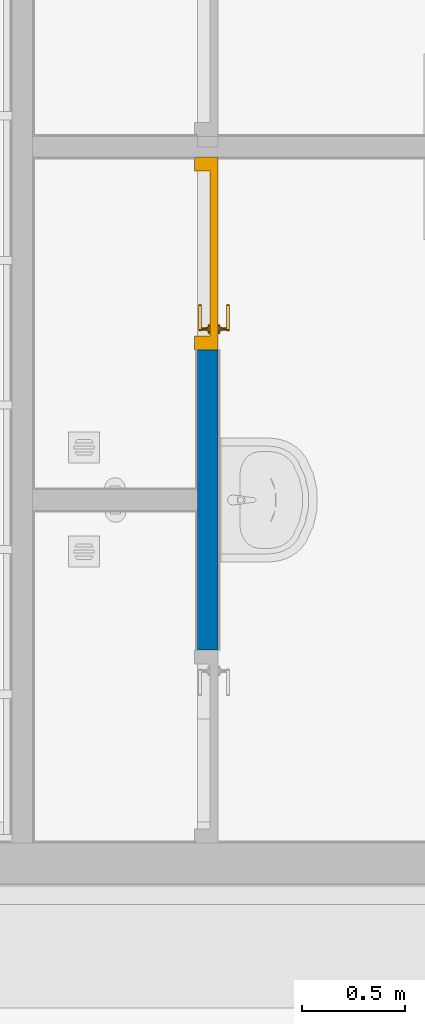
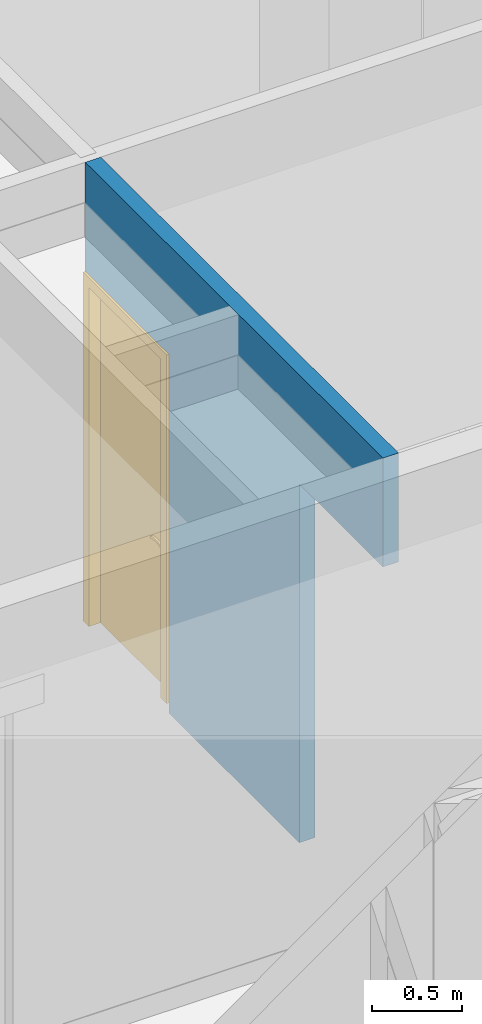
# One storey, part 8 of 788: 1 door, 1 wall, 2 openings.
"""IFC2X3 building model written with IfcOpenShell, lengths in millimetres."""

from ifc_helpers import new_model, entity, si_unit, converted_unit, derived_unit, money_unit, direction, frame, origin_with_axes, place, context, subcontext, project, spatial, faceted_brep, source, transform, mapped, material, type_object, type_shapes, element, fill, save


model = new_model("IFC2X3")

# Units and contexts
model_context = context("Model", 3, precision=0.01, world=origin_with_axes(), true_north=direction((0.0, 1.0)))
plan_context = context("Plan", 3, precision=0.01, world=origin_with_axes(), true_north=direction((0.0, 1.0)))
body_context = subcontext(model_context, "Body", "Model", "MODEL_VIEW")
ifc_project = project(units=[si_unit("LENGTHUNIT", "METRE", prefix="MILLI"), si_unit("AREAUNIT", "SQUARE_METRE"), si_unit("VOLUMEUNIT", "CUBIC_METRE"), converted_unit("PLANEANGLEUNIT", "DEGREE", entity("IfcPlaneAngleMeasure", 0.0174532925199), si_unit("PLANEANGLEUNIT", "RADIAN"), dimensions=[0, 0, 0, 0, 0, 0, 0]), money_unit("EUR"), converted_unit("TIMEUNIT", "Year", entity("IfcTimeMeasure", 31556926.0), si_unit("TIMEUNIT", "SECOND"), dimensions=[0, 0, 1, 0, 0, 0, 0]), si_unit("MASSUNIT", "GRAM", prefix="KILO"), si_unit("THERMODYNAMICTEMPERATUREUNIT", "DEGREE_CELSIUS"), si_unit("LUMINOUSINTENSITYUNIT", "LUMEN"), si_unit("ENERGYUNIT", "JOULE", prefix="MEGA"), derived_unit("THERMALCONDUCTANCEUNIT", [(si_unit("POWERUNIT", "WATT"), 1), (si_unit("LENGTHUNIT", "METRE"), -1), (si_unit("THERMODYNAMICTEMPERATUREUNIT", "KELVIN"), -1)]), derived_unit("SPECIFICHEATCAPACITYUNIT", [(si_unit("ENERGYUNIT", "JOULE"), 1), (si_unit("MASSUNIT", "GRAM", prefix="KILO"), -1), (si_unit("THERMODYNAMICTEMPERATUREUNIT", "KELVIN"), -1)]), derived_unit("MASSDENSITYUNIT", [(si_unit("MASSUNIT", "GRAM", prefix="KILO"), 1), (si_unit("VOLUMEUNIT", "CUBIC_METRE"), -1)])], contexts=[model_context, plan_context])

# Site, building, storey
site_placement = place(None, origin_with_axes())
site = spatial("IfcSite", under=ifc_project, at=site_placement, Name="Site", CompositionType="ELEMENT")
building_placement = place(site_placement, origin_with_axes())
building = spatial("IfcBuilding", under=site, at=building_placement, Name="Naam gebouw", CompositionType="ELEMENT")
storey_placement = place(building_placement, origin_with_axes())
storey = spatial("IfcBuildingStorey", under=building, at=storey_placement, Name="Begane grond", CompositionType="ELEMENT", Elevation=0.0)

# Wall, openings, door
ifc_material = material(Name="Steen - Betonblok C")
wall_type = type_object("IfcWallType", Name="22 Binnenwand NC_betonblok 100mm 100", PredefinedType="ELEMENTEDWALL")
wall_placement = place(storey_placement, frame((68656.0127546, -47328.9563034, 830.0), z_axis=(0.0, 0.0, 1.0), x_axis=(0.0, -1.0, 0.0)))
wall = element("IfcWall", 1, at=wall_placement, inside=storey, type_object=wall_type, material=ifc_material, Name="Binnenwand", context=body_context, shape_type="Brep", body=[
    faceted_brep([(2441.04552762, 100.0, 2447.0), (2441.04552762, 100.0, 70.0), (2441.04552762, 100.0, 0.0), (984.000000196, 100.0, 0.0), (984.000000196, 100.0, 70.0), (984.000000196, 100.0, 2447.0), (50.043772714, 100.0, 2447.0), (50.043772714, 100.0, 3190.0), (3375.04377271, 100.0, 3190.0), (3375.04552762, 100.0, 2447.0), (2441.04552762, 0.0, 2447.0), (2441.04552762, 0.0, 70.0), (2441.04552762, 0.0, 0.0), (984.000000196, 0.0, 0.0), (984.000000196, 0.0, 70.0), (984.000000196, 0.0, 2447.0), (50.043772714, 0.0, 2447.0), (50.043772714, 0.0, 3190.0), (3375.04377271, 0.0, 3190.0), (3375.04552762, 0.0, 2447.0)], [[[0, 1, 2, 3, 4, 5, 6, 7, 8, 9]], [[1, 0, 10, 11]], [[1, 11, 12, 2]], [[12, 13, 3, 2]], [[4, 3, 13, 14]], [[4, 14, 15, 5]], [[6, 5, 15, 16]], [[16, 17, 7, 6]], [[8, 7, 17, 18]], [[19, 9, 8, 18]], [[0, 9, 19, 10]], [[10, 19, 18, 17, 16, 15, 14, 13, 12, 11]]]),
])
opening_1_placement = place(wall_placement, frame((517.000000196, 0.0, 70.0), z_axis=(0.0, 0.0, 1.0), x_axis=(1.0, 0.0, 0.0)))
opening_1 = element("IfcOpeningElement", 2, at=opening_1_placement, cuts=wall, Name="b1.11-sp", context=body_context, shape_type="Brep", body=[
    faceted_brep([(-467.0, 200.0, 2377.0), (-467.0, 200.0, 0.0), (-467.0, -100.0, 0.0), (-467.0, -100.0, 2377.0), (467.0, 200.0, 2377.0), (467.0, 200.0, 0.0), (467.0, -100.0, 0.0), (467.0, -100.0, 2377.0)], [[[0, 1, 2, 3]], [[0, 4, 5, 1]], [[1, 5, 6, 2]], [[3, 2, 6, 7]], [[4, 0, 3, 7]], [[5, 4, 7, 6]]]),
])
opening_2_placement = place(wall_placement, frame((2908.04552762, 0.0, 70.0), z_axis=(0.0, 0.0, 1.0), x_axis=(1.0, 0.0, 0.0)))
element("IfcOpeningElement", 3, at=opening_2_placement, cuts=wall, Name="b1.11", context=body_context, shape_type="Brep", body=[
    faceted_brep([(467.0, -100.0, 2377.0), (467.0, -100.0, 0.0), (467.0, 200.0, 0.0), (467.0, 200.0, 2377.0), (-467.0, -100.0, 2377.0), (-467.0, -100.0, 0.0), (-467.0, 200.0, 0.0), (-467.0, 200.0, 2377.0)], [[[0, 1, 2, 3]], [[0, 4, 5, 1]], [[1, 5, 6, 2]], [[3, 2, 6, 7]], [[4, 0, 3, 7]], [[5, 4, 7, 6]]]),
])
door_style = type_object("IfcDoorStyle", Name="D1 25", ConstructionType="NOTDEFINED", OperationType="SINGLE_SWING_LEFT", ParameterTakesPrecedence=False, Sizeable=False)
shared_shape = source(origin_with_axes(), body_context, "Body", "Brep", [
    faceted_brep([(400.0, -40.0, 0.0), (400.0, -114.0, 0.0), (400.0, -114.0, 2310.0), (400.0, -40.0, 2310.0), (417.0, -40.0, 0.0), (417.0, 0.0, 0.0), (467.0, 0.0, 0.0), (467.0, -114.0, 0.0), (467.0, -114.0, 2310.0), (417.0, -40.0, 2310.0), (467.0, 0.0, 2310.0), (417.0, 0.0, 2310.0)], [[[0, 1, 2, 3]], [[4, 5, 6, 7, 1, 0]], [[1, 7, 8, 2]], [[9, 3, 2, 8, 10, 11]], [[9, 4, 0, 3]], [[11, 5, 4, 9]], [[11, 10, 6, 5]], [[6, 10, 8, 7]]]),
    faceted_brep([(-417.0, -40.0, 2310.0), (-417.0, 0.0, 2310.0), (-467.0, 0.0, 2310.0), (-467.0, -114.0, 2310.0), (-400.0, -114.0, 2310.0), (-400.0, -40.0, 2310.0), (-417.0, -40.0, 0.0), (-417.0, 0.0, 0.0), (-467.0, 0.0, 0.0), (-467.0, -114.0, 0.0), (-400.0, -114.0, 0.0), (-400.0, -40.0, 0.0)], [[[0, 1, 2, 3, 4, 5]], [[0, 6, 7, 1]], [[7, 8, 2, 1]], [[2, 8, 9, 3]], [[3, 9, 10, 4]], [[5, 4, 10, 11]], [[5, 11, 6, 0]], [[6, 11, 10, 9, 8, 7]]]),
    faceted_brep([(417.0, 0.0, 2327.0), (-417.0, 0.0, 2327.0), (-417.0, 0.0, 2310.0), (-467.0, 0.0, 2310.0), (-467.0, 0.0, 2377.0), (467.0, 0.0, 2377.0), (467.0, 0.0, 2310.0), (417.0, 0.0, 2310.0), (417.0, -40.0, 2327.0), (-417.0, -40.0, 2327.0), (-417.0, -40.0, 2310.0), (-400.0, -40.0, 2310.0), (-400.0, -114.0, 2310.0), (-467.0, -114.0, 2310.0), (-467.0, -114.0, 2377.0), (467.0, -114.0, 2377.0), (467.0, -114.0, 2310.0), (417.0, -40.0, 2310.0), (400.0, -114.0, 2310.0), (400.0, -40.0, 2310.0)], [[[0, 1, 2, 3, 4, 5, 6, 7]], [[0, 8, 9, 1]], [[1, 9, 10, 2]], [[10, 11, 12, 13, 3, 2]], [[4, 3, 13, 14]], [[5, 4, 14, 15]], [[6, 5, 15, 16]], [[17, 7, 6, 16, 18, 19]], [[7, 17, 8, 0]], [[10, 9, 8, 17, 19, 11]], [[19, 18, 12, 11]], [[12, 18, 16, 15, 14, 13]]]),
    faceted_brep([(371.702282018, -80.0, 1006.47213595), (371.702282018, -60.0, 1006.47213595), (367.0, -60.0, 1008.0), (367.0, -80.0, 1008.0), (374.60845213, -80.0, 1002.47213595), (374.60845213, -60.0, 1002.47213595), (372.877852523, -58.0, 1008.09016994), (367.0, -58.0, 1010.0), (362.297717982, -60.0, 1006.47213595), (362.297717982, -80.0, 1006.47213595), (359.39154787, -80.0, 1002.47213595), (359.39154787, -80.0, 997.527864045), (362.297717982, -80.0, 993.527864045), (367.0, -80.0, 992.0), (371.702282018, -80.0, 993.527864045), (374.60845213, -80.0, 997.527864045), (374.60845213, -60.0, 997.527864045), (376.510565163, -58.0, 1003.09016994), (372.877852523, -50.0, 1008.09016994), (367.0, -50.0, 1010.0), (361.122147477, -58.0, 1008.09016994), (359.39154787, -60.0, 1002.47213595), (359.39154787, -60.0, 997.527864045), (362.297717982, -60.0, 993.527864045), (367.0, -60.0, 992.0), (371.702282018, -60.0, 993.527864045), (376.510565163, -58.0, 996.909830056), (376.510565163, -50.0, 1003.09016994), (376.510565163, -50.0, 996.909830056), (372.877852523, -50.0, 991.909830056), (367.0, -50.0, 990.0), (361.122147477, -50.0, 991.909830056), (357.489434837, -50.0, 996.909830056), (357.489434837, -50.0, 1003.09016994), (361.122147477, -50.0, 1008.09016994), (357.489434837, -58.0, 1003.09016994), (357.489434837, -58.0, 996.909830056), (361.122147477, -58.0, 991.909830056), (367.0, -58.0, 990.0), (372.877852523, -58.0, 991.909830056)], [[[0, 1, 2, 3]], [[4, 5, 1, 0]], [[1, 6, 7, 2]], [[3, 2, 8, 9]], [[3, 9, 10, 11, 12, 13, 14, 15, 4, 0]], [[15, 16, 5, 4]], [[5, 17, 6, 1]], [[6, 18, 19, 7]], [[2, 7, 20, 8]], [[9, 8, 21, 10]], [[10, 21, 22, 11]], [[11, 22, 23, 12]], [[12, 23, 24, 13]], [[13, 24, 25, 14]], [[14, 25, 16, 15]], [[16, 26, 17, 5]], [[17, 27, 18, 6]], [[19, 18, 27, 28, 29, 30, 31, 32, 33, 34]], [[7, 19, 34, 20]], [[8, 20, 35, 21]], [[21, 35, 36, 22]], [[22, 36, 37, 23]], [[23, 37, 38, 24]], [[24, 38, 39, 25]], [[25, 39, 26, 16]], [[26, 28, 27, 17]], [[39, 29, 28, 26]], [[38, 30, 29, 39]], [[37, 31, 30, 38]], [[36, 32, 31, 37]], [[35, 33, 32, 36]], [[20, 34, 33, 35]]]),
    faceted_brep([(354.811616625, -50.0, 1067.59695641), (350.2, -50.0, 1060.0), (344.5, -50.0, 1060.0), (344.5, -50.0, 840.0), (350.2, -50.0, 840.0), (354.811616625, -50.0, 832.403043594), (362.556444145, -50.0, 828.044328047), (371.443555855, -50.0, 828.044328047), (379.188383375, -50.0, 832.403043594), (383.8, -50.0, 840.0), (389.5, -50.0, 840.0), (389.5, -50.0, 1060.0), (383.8, -50.0, 1060.0), (379.188383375, -50.0, 1067.59695641), (371.443555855, -50.0, 1071.95567195), (362.556444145, -50.0, 1071.95567195), (367.0, -50.0, 917.425445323), (372.375182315, -50.0, 915.143815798), (374.467830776, -50.0, 909.692280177), (372.0, -50.0, 904.4), (372.0, -50.0, 887.5), (370.535533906, -50.0, 883.964466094), (367.0, -50.0, 882.5), (363.464466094, -50.0, 883.964466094), (362.0, -50.0, 887.5), (362.0, -50.0, 904.4), (359.532169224, -50.0, 909.692280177), (361.624817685, -50.0, 915.143815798), (354.811616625, -40.0, 1067.59695641), (350.2, -40.0, 1060.0), (344.5, -40.0, 1060.0), (344.5, -40.0, 840.0), (350.2, -40.0, 840.0), (354.811616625, -40.0, 832.403043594), (362.556444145, -40.0, 828.044328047), (371.443555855, -40.0, 828.044328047), (379.188383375, -40.0, 832.403043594), (383.8, -40.0, 840.0), (389.5, -40.0, 840.0), (389.5, -40.0, 1060.0), (383.8, -40.0, 1060.0), (379.188383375, -40.0, 1067.59695641), (371.443555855, -40.0, 1071.95567195), (362.556444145, -40.0, 1071.95567195), (367.0, -40.0, 917.425445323), (372.375182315, -40.0, 915.143815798), (374.467830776, -40.0, 909.692280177), (372.0, -40.0, 904.4), (372.0, -40.0, 887.5), (370.535533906, -40.0, 883.964466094), (367.0, -40.0, 882.5), (363.464466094, -40.0, 883.964466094), (362.0, -40.0, 887.5), (362.0, -40.0, 904.4), (359.532169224, -40.0, 909.692280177), (361.624817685, -40.0, 915.143815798)], [[[0, 1, 2, 3, 4, 5, 6, 7, 8, 9, 10, 11, 12, 13, 14, 15], [16, 17, 18, 19, 20, 21, 22, 23, 24, 25, 26, 27]], [[0, 28, 29, 1]], [[1, 29, 30, 2]], [[2, 30, 31, 3]], [[3, 31, 32, 4]], [[4, 32, 33, 5]], [[5, 33, 34, 6]], [[6, 34, 35, 7]], [[7, 35, 36, 8]], [[8, 36, 37, 9]], [[9, 37, 38, 10]], [[10, 38, 39, 11]], [[11, 39, 40, 12]], [[12, 40, 41, 13]], [[13, 41, 42, 14]], [[14, 42, 43, 15]], [[15, 43, 28, 0]], [[16, 44, 45, 17]], [[17, 45, 46, 18]], [[18, 46, 47, 19]], [[47, 48, 20, 19]], [[21, 20, 48, 49]], [[22, 21, 49, 50]], [[23, 22, 50, 51]], [[24, 23, 51, 52]], [[25, 24, 52, 53]], [[25, 53, 54, 26]], [[26, 54, 55, 27]], [[27, 55, 44, 16]], [[32, 31, 30, 29, 28, 43, 42, 41, 40, 39, 38, 37, 36, 35, 34, 33], [46, 45, 44, 55, 54, 53, 52, 51, 50, 49, 48, 47]]]),
    faceted_brep([(252.747, -80.0, 1007.158), (252.745508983, -80.0, 1007.19388416), (252.745508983, -95.0, 1007.19388416), (252.747, -95.0, 1007.158), (279.774630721, -80.0, 1014.32652034), (307.602743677, -80.0, 1017.06086405), (335.508740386, -80.0, 1015.29002982), (362.768, -80.0, 1009.06), (369.170575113, -80.0, 1009.76125134), (374.672633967, -80.0, 1006.41280843), (376.991512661, -80.0, 1000.40385485), (375.165167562, -80.0, 994.227352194), (369.951302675, -80.0, 990.445773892), (363.513017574, -80.0, 990.628000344), (358.521392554, -80.0, 994.698430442), (358.542, -80.0, 994.666), (333.253286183, -80.0, 1000.19878945), (307.410818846, -80.0, 1001.71460194), (281.648684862, -80.0, 999.176244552), (256.599, -80.0, 992.646), (251.055815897, -80.0, 993.568490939), (247.69427449, -80.0, 998.071591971), (248.385844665, -80.0, 1003.64829442), (248.385844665, -95.0, 1003.64829442), (247.69427449, -95.0, 998.071591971), (251.055815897, -95.0, 993.568490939), (256.599, -95.0, 992.646), (281.648684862, -95.0, 999.176244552), (307.410818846, -95.0, 1001.71460194), (333.253286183, -95.0, 1000.19878945), (358.542, -95.0, 994.666), (358.521392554, -95.0, 994.698430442), (363.513017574, -95.0, 990.628000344), (369.951302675, -95.0, 990.445773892), (375.165167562, -95.0, 994.227352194), (376.991512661, -95.0, 1000.40385485), (374.672633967, -95.0, 1006.41280843), (369.170575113, -95.0, 1009.76125134), (362.768, -95.0, 1009.06), (335.508740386, -95.0, 1015.29002982), (307.602743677, -95.0, 1017.06086405), (279.774630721, -95.0, 1014.32652034)], [[[0, 1, 2, 3]], [[0, 4, 5, 6, 7, 8, 9, 10, 11, 12, 13, 14, 15, 16, 17, 18, 19, 20, 21, 22, 1]], [[1, 22, 23, 2]], [[3, 2, 23, 24, 25, 26, 27, 28, 29, 30, 31, 32, 33, 34, 35, 36, 37, 38, 39, 40, 41]], [[4, 0, 3, 41]], [[5, 4, 41, 40]], [[6, 5, 40, 39]], [[7, 6, 39, 38]], [[8, 7, 38, 37]], [[9, 8, 37, 36]], [[10, 9, 36, 35]], [[11, 10, 35, 34]], [[12, 11, 34, 33]], [[13, 12, 33, 32]], [[14, 13, 32, 31]], [[15, 14, 31, 30]], [[16, 15, 30, 29]], [[17, 16, 29, 28]], [[18, 17, 28, 27]], [[19, 18, 27, 26]], [[20, 19, 26, 25]], [[21, 20, 25, 24]], [[22, 21, 24, 23]]]),
    faceted_brep([(371.702282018, 40.0, 1006.47213595), (367.0, 40.0, 1008.0), (367.0, 20.0, 1008.0), (371.702282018, 20.0, 1006.47213595), (374.60845213, 40.0, 1002.47213595), (374.60845213, 40.0, 997.527864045), (371.702282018, 40.0, 993.527864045), (367.0, 40.0, 992.0), (362.297717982, 40.0, 993.527864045), (359.39154787, 40.0, 997.527864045), (359.39154787, 40.0, 1002.47213595), (362.297717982, 40.0, 1006.47213595), (362.297717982, 20.0, 1006.47213595), (367.0, 18.0, 1010.0), (372.877852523, 18.0, 1008.09016994), (374.60845213, 20.0, 1002.47213595), (374.60845213, 20.0, 997.527864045), (371.702282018, 20.0, 993.527864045), (367.0, 20.0, 992.0), (362.297717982, 20.0, 993.527864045), (359.39154787, 20.0, 997.527864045), (359.39154787, 20.0, 1002.47213595), (361.122147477, 18.0, 1008.09016994), (367.0, 10.0, 1010.0), (372.877852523, 10.0, 1008.09016994), (376.510565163, 18.0, 1003.09016994), (376.510565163, 18.0, 996.909830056), (372.877852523, 18.0, 991.909830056), (367.0, 18.0, 990.0), (361.122147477, 18.0, 991.909830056), (357.489434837, 18.0, 996.909830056), (357.489434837, 18.0, 1003.09016994), (361.122147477, 10.0, 1008.09016994), (357.489434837, 10.0, 1003.09016994), (357.489434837, 10.0, 996.909830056), (361.122147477, 10.0, 991.909830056), (367.0, 10.0, 990.0), (372.877852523, 10.0, 991.909830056), (376.510565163, 10.0, 996.909830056), (376.510565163, 10.0, 1003.09016994)], [[[0, 1, 2, 3]], [[1, 0, 4, 5, 6, 7, 8, 9, 10, 11]], [[1, 11, 12, 2]], [[3, 2, 13, 14]], [[4, 0, 3, 15]], [[5, 4, 15, 16]], [[6, 5, 16, 17]], [[7, 6, 17, 18]], [[8, 7, 18, 19]], [[9, 8, 19, 20]], [[10, 9, 20, 21]], [[11, 10, 21, 12]], [[2, 12, 22, 13]], [[14, 13, 23, 24]], [[15, 3, 14, 25]], [[16, 15, 25, 26]], [[17, 16, 26, 27]], [[18, 17, 27, 28]], [[19, 18, 28, 29]], [[20, 19, 29, 30]], [[21, 20, 30, 31]], [[12, 21, 31, 22]], [[13, 22, 32, 23]], [[23, 32, 33, 34, 35, 36, 37, 38, 39, 24]], [[25, 14, 24, 39]], [[26, 25, 39, 38]], [[27, 26, 38, 37]], [[28, 27, 37, 36]], [[29, 28, 36, 35]], [[30, 29, 35, 34]], [[31, 30, 34, 33]], [[22, 31, 33, 32]]]),
    faceted_brep([(354.811616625, 0.0, 1067.59695641), (350.2, 0.0, 1060.0), (344.5, 0.0, 1060.0), (344.5, 0.0, 840.0), (350.2, 0.0, 840.0), (354.811616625, 0.0, 832.403043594), (362.556444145, 0.0, 828.044328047), (371.443555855, 0.0, 828.044328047), (379.188383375, 0.0, 832.403043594), (383.8, 0.0, 840.0), (389.5, 0.0, 840.0), (389.5, 0.0, 1060.0), (383.8, 0.0, 1060.0), (379.188383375, 0.0, 1067.59695641), (371.443555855, 0.0, 1071.95567195), (362.556444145, 0.0, 1071.95567195), (367.0, 0.0, 917.425445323), (372.375182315, 0.0, 915.143815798), (374.467830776, 0.0, 909.692280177), (372.0, 0.0, 904.4), (372.0, 0.0, 887.5), (370.535533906, 0.0, 883.964466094), (367.0, 0.0, 882.5), (363.464466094, 0.0, 883.964466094), (362.0, 0.0, 887.5), (362.0, 0.0, 904.4), (359.532169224, 0.0, 909.692280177), (361.624817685, 0.0, 915.143815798), (354.811616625, 10.0, 1067.59695641), (350.2, 10.0, 1060.0), (344.5, 10.0, 1060.0), (344.5, 10.0, 840.0), (350.2, 10.0, 840.0), (354.811616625, 10.0, 832.403043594), (362.556444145, 10.0, 828.044328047), (371.443555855, 10.0, 828.044328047), (379.188383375, 10.0, 832.403043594), (383.8, 10.0, 840.0), (389.5, 10.0, 840.0), (389.5, 10.0, 1060.0), (383.8, 10.0, 1060.0), (379.188383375, 10.0, 1067.59695641), (371.443555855, 10.0, 1071.95567195), (362.556444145, 10.0, 1071.95567195), (367.0, 10.0, 917.425445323), (372.375182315, 10.0, 915.143815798), (374.467830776, 10.0, 909.692280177), (372.0, 10.0, 904.4), (372.0, 10.0, 887.5), (370.535533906, 10.0, 883.964466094), (367.0, 10.0, 882.5), (363.464466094, 10.0, 883.964466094), (362.0, 10.0, 887.5), (362.0, 10.0, 904.4), (359.532169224, 10.0, 909.692280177), (361.624817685, 10.0, 915.143815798)], [[[0, 1, 2, 3, 4, 5, 6, 7, 8, 9, 10, 11, 12, 13, 14, 15], [16, 17, 18, 19, 20, 21, 22, 23, 24, 25, 26, 27]], [[28, 29, 1, 0]], [[29, 30, 2, 1]], [[30, 31, 3, 2]], [[31, 32, 4, 3]], [[32, 33, 5, 4]], [[33, 34, 6, 5]], [[34, 35, 7, 6]], [[35, 36, 8, 7]], [[36, 37, 9, 8]], [[37, 38, 10, 9]], [[38, 39, 11, 10]], [[39, 40, 12, 11]], [[40, 41, 13, 12]], [[41, 42, 14, 13]], [[42, 43, 15, 14]], [[43, 28, 0, 15]], [[16, 44, 45, 17]], [[17, 45, 46, 18]], [[18, 46, 47, 19]], [[47, 48, 20, 19]], [[21, 20, 48, 49]], [[22, 21, 49, 50]], [[23, 22, 50, 51]], [[24, 23, 51, 52]], [[25, 24, 52, 53]], [[25, 53, 54, 26]], [[26, 54, 55, 27]], [[27, 55, 44, 16]], [[32, 31, 30, 29, 28, 43, 42, 41, 40, 39, 38, 37, 36, 35, 34, 33], [46, 45, 44, 55, 54, 53, 52, 51, 50, 49, 48, 47]]]),
    faceted_brep([(252.747, 40.0, 1007.158), (252.747, 55.0, 1007.158), (252.745508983, 55.0, 1007.19388416), (252.745508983, 40.0, 1007.19388416), (279.774630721, 40.0, 1014.32652034), (279.774630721, 55.0, 1014.32652034), (307.602743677, 55.0, 1017.06086405), (335.508740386, 55.0, 1015.29002982), (362.768, 55.0, 1009.06), (369.170575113, 55.0, 1009.76125134), (374.672633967, 55.0, 1006.41280843), (376.991512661, 55.0, 1000.40385485), (375.165167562, 55.0, 994.227352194), (369.951302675, 55.0, 990.445773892), (363.513017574, 55.0, 990.628000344), (358.521392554, 55.0, 994.698430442), (358.542, 55.0, 994.666), (333.253286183, 55.0, 1000.19878945), (307.410818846, 55.0, 1001.71460194), (281.648684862, 55.0, 999.176244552), (256.599, 55.0, 992.646), (251.055815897, 55.0, 993.568490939), (247.69427449, 55.0, 998.071591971), (248.385844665, 55.0, 1003.64829442), (248.385844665, 40.0, 1003.64829442), (247.69427449, 40.0, 998.071591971), (251.055815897, 40.0, 993.568490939), (256.599, 40.0, 992.646), (281.648684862, 40.0, 999.176244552), (307.410818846, 40.0, 1001.71460194), (333.253286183, 40.0, 1000.19878945), (358.542, 40.0, 994.666), (358.521392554, 40.0, 994.698430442), (363.513017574, 40.0, 990.628000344), (369.951302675, 40.0, 990.445773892), (375.165167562, 40.0, 994.227352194), (376.991512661, 40.0, 1000.40385485), (374.672633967, 40.0, 1006.41280843), (369.170575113, 40.0, 1009.76125134), (362.768, 40.0, 1009.06), (335.508740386, 40.0, 1015.29002982), (307.602743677, 40.0, 1017.06086405)], [[[0, 1, 2, 3]], [[4, 5, 1, 0]], [[1, 5, 6, 7, 8, 9, 10, 11, 12, 13, 14, 15, 16, 17, 18, 19, 20, 21, 22, 23, 2]], [[3, 2, 23, 24]], [[0, 3, 24, 25, 26, 27, 28, 29, 30, 31, 32, 33, 34, 35, 36, 37, 38, 39, 40, 41, 4]], [[41, 6, 5, 4]], [[40, 7, 6, 41]], [[39, 8, 7, 40]], [[38, 9, 8, 39]], [[37, 10, 9, 38]], [[36, 11, 10, 37]], [[35, 12, 11, 36]], [[34, 13, 12, 35]], [[33, 14, 13, 34]], [[32, 15, 14, 33]], [[31, 16, 15, 32]], [[30, 17, 16, 31]], [[29, 18, 17, 30]], [[28, 19, 18, 29]], [[27, 20, 19, 28]], [[26, 21, 20, 27]], [[25, 22, 21, 26]], [[24, 23, 22, 25]]]),
    faceted_brep([(-417.0, 0.0, 0.0), (417.0, 0.0, 0.0), (417.0, -40.0, 0.0), (-417.0, -40.0, 0.0), (-417.0, 0.0, 2327.0), (417.0, 0.0, 2327.0), (417.0, -40.0, 2327.0), (-417.0, -40.0, 2327.0)], [[[0, 1, 2, 3]], [[0, 4, 5, 1]], [[1, 5, 6, 2]], [[3, 2, 6, 7]], [[4, 0, 3, 7]], [[5, 4, 7, 6]]]),
])
type_shapes(door_style, [shared_shape])
door_placement = place(opening_1_placement, frame((-467.0, 0.0, 0.0), z_axis=(0.0, 0.0, 1.0), x_axis=(1.0, 0.0, 0.0)))
door = element("IfcDoor", 4, at=door_placement, inside=storey, type_object=door_style, Name="b1.11-sp", ObjectType="DOOR", OverallHeight=2377.0, OverallWidth=934.0, context=body_context, shape_type="MappedRepresentation", body=[
    mapped(shared_shape, transform((467.0, 100.0, 0.0))),
])
fill(opening_1, door)

save(model, "model.ifc")
